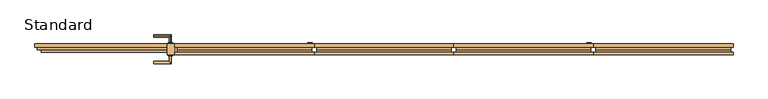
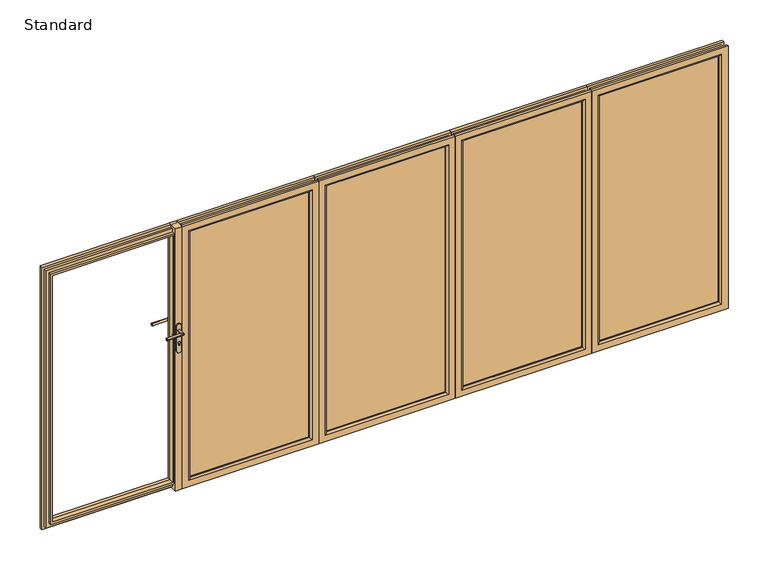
"""IFC4 building model written with IfcOpenShell, lengths in millimetres: door geometry, SMARTS_Visofold1000 : Standard."""

from ifc_helpers import new_model, si_unit, point, frame, frame_2d, origin, origin_with_axes, place, context, project, spatial, polyline, circle_curve, ellipse_curve, trimmed, segment, composite_curve, outline, extrude, faceted_brep, source, transform, mapped, element, save
from ifc_brep_helpers import plane_surface, cylinder_surface, advanced_brep


def standard_f892411e(model_context):
    return source(origin(), model_context, "Body", "SolidModel", [
        extrude(outline(composite_curve([segment(polyline([(1228.0996413, -538.0), (1040.0996413, -538.0)]), True, "CONTINUOUS"), segment(trimmed(circle_curve(frame_2d((1040.0996413, -522.0)), 16.0), [point((1040.0996413, -538.0))], [point((1040.0996413, -506.0))], False, "CARTESIAN"), True, "CONTINUOUS"), segment(polyline([(1040.0996413, -506.0), (1228.0996413, -506.0)]), True, "CONTINUOUS"), segment(trimmed(circle_curve(frame_2d((1228.0996413, -522.0)), 16.0), [point((1228.0996413, -506.0))], [point((1228.0996413, -538.0))], False, "CARTESIAN"), True, "CONTINUOUS")], self_intersect=False)), frame((0.0, 75.0, 0.0), z_axis=(0.0, 1.0, 0.0), x_axis=(0.0, 0.0, 1.0)), (0.0, 0.0, 1.0), 10.0),
        extrude(outline(polyline([(45.0, -537.0), (1955.0, -537.0), (1955.0, -1431.0), (45.0, -1431.0), (45.0, -537.0)]), holes=[polyline([(1939.5, -552.5), (60.5, -552.5), (60.5, -1415.5), (1939.5, -1415.5), (1939.5, -552.5)])]), frame((0.0, 17.4, 0.0), z_axis=(0.0, 1.0, 0.0), x_axis=(0.0, 0.0, 1.0)), (0.0, 0.0, 1.0), 35.0),
        faceted_brep([(-492.0, 74.4, 0.0), (-492.0, 74.4, 2000.0), (-492.0, 52.4, 2000.0), (-492.0, 52.4, 0.0), (-552.5, 52.4, 60.5), (-552.5, 52.4, 1939.5), (-552.5, 74.4, 1939.5), (-552.5, 74.4, 60.5), (-1476.0, 74.4, 2000.0), (-1476.0, 52.4, 2000.0), (-1415.5, 52.4, 1939.5), (-1415.5, 74.4, 1939.5), (-1476.0, 74.4, 0.0), (-1476.0, 52.4, 0.0), (-1415.5, 52.4, 60.5), (-1415.5, 74.4, 60.5), (-509.8691481, 34.8, 17.8691481), (-509.8691481, 34.8, 1982.1308519), (-1458.1308519, 34.8, 1982.1308519), (-1458.1308519, 34.8, 17.8691481), (-537.0, 34.8, 1955.0), (-537.0, 34.8, 45.0), (-1431.0, 34.8, 45.0), (-1431.0, 34.8, 1955.0), (-509.8691481, 52.4, 17.8691481), (-509.8691481, 52.4, 1982.1308519), (-537.0, 52.4, 1955.0), (-537.0, 52.4, 45.0), (-1458.1308519, 52.4, 1982.1308519), (-1431.0, 52.4, 1955.0), (-1458.1308519, 52.4, 17.8691481), (-1431.0, 52.4, 45.0)], [[[0, 1, 2, 3]], [[4, 5, 6, 7]], [[1, 8, 9, 2]], [[5, 10, 11, 6]], [[8, 12, 13, 9]], [[10, 14, 15, 11]], [[12, 0, 3, 13]], [[1, 0, 12, 8], [7, 6, 11, 15]], [[14, 4, 7, 15]], [[16, 17, 18, 19], [20, 21, 22, 23]], [[24, 25, 17, 16]], [[21, 20, 26, 27]], [[25, 28, 18, 17]], [[20, 23, 29, 26]], [[28, 30, 19, 18]], [[23, 22, 31, 29]], [[30, 24, 16, 19]], [[3, 2, 9, 13], [25, 24, 30, 28]], [[27, 26, 29, 31], [5, 4, 14, 10]], [[22, 21, 27, 31]]]),
        advanced_brep(
        [(-552.5, 13.3, 60.5), (-552.5, 13.3, 1939.5), (-552.5, 17.4, 1939.5), (-552.5, 17.4, 60.5), (-492.0, 17.4, 0.0), (-492.0, 17.4, 2000.0), (-492.0, 0.0, 2000.0), (-492.0, 0.0, 0.0), (-1415.5, 13.3, 1939.5), (-1415.5, 17.4, 1939.5), (-1476.0, 17.4, 2000.0), (-1476.0, 0.0, 2000.0), (-1415.5, 13.3, 60.5), (-1415.5, 17.4, 60.5), (-1476.0, 17.4, 0.0), (-1476.0, 0.0, 0.0), (-539.2, 0.0, 1952.8), (-539.2, 0.0, 47.2), (-1428.8, 0.0, 47.2), (-1428.8, 0.0, 1952.8), (-509.8691481, 34.8, 17.8691481), (-509.8691481, 34.8, 1982.1308519), (-509.8691481, 17.4, 1982.1308519), (-509.8691481, 17.4, 17.8691481), (-1458.1308519, 34.8, 1982.1308519), (-1458.1308519, 17.4, 1982.1308519), (-1458.1308519, 34.8, 17.8691481), (-1458.1308519, 17.4, 17.8691481), (-537.0, 17.4, 45.0), (-537.0, 17.4, 1955.0), (-537.0, 34.8, 1955.0), (-537.0, 34.8, 45.0), (-1431.0, 17.4, 1955.0), (-1431.0, 34.8, 1955.0), (-1431.0, 17.4, 45.0), (-1431.0, 34.8, 45.0)],
        [
            (0, 1),
            (1, 2),
            (2, 3),
            (3, 0),
            (4, 5),
            (5, 6),
            (6, 7),
            (7, 4),
            (1, 8),
            (8, 9),
            (9, 2),
            (5, 10),
            (10, 11),
            (11, 6),
            (8, 12),
            (12, 13),
            (13, 9),
            (10, 14),
            (14, 15),
            (15, 11),
            (12, 0),
            (3, 13),
            (15, 7),
            (16, 17),
            (17, 18),
            (18, 19),
            (19, 16),
            (14, 4),
            (16, 1, ellipse_curve(frame((-539.2, 13.3, 1952.8), z_axis=(0.7071067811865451, 0.0, -0.7071067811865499), x_axis=(-0.70710678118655, 0.0, -0.7071067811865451)), 18.8090404, 13.3)),
            (0, 17, ellipse_curve(frame((-539.2, 13.3, 47.2), z_axis=(0.70710678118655, 0.0, 0.707106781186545), x_axis=(0.707106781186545, 0.0, -0.7071067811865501)), 18.8090404, 13.3)),
            (19, 8, ellipse_curve(frame((-1428.8, 13.3, 1952.8), z_axis=(0.70710678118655, 0.0, 0.707106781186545), x_axis=(0.707106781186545, 0.0, -0.7071067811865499)), 18.8090404, 13.3)),
            (18, 12, ellipse_curve(frame((-1428.8, 13.3, 47.2), z_axis=(-0.7071067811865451, 0.0, 0.7071067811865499), x_axis=(0.70710678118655, 0.0, 0.7071067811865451)), 18.8090404, 13.3)),
            (20, 21),
            (21, 22),
            (22, 23),
            (23, 20),
            (21, 24),
            (24, 25),
            (25, 22),
            (24, 26),
            (26, 27),
            (27, 25),
            (27, 23),
            (26, 20),
            (28, 29),
            (29, 30),
            (30, 31),
            (31, 28),
            (29, 32),
            (32, 33),
            (33, 30),
            (32, 34),
            (34, 35),
            (35, 33),
            (34, 28),
            (31, 35),
        ],
        [
            plane_surface(frame((-552.5, 17.4, 60.5), z_axis=(-1.0, 0.0, 0.0), x_axis=(0.0, 0.0, 1.0))),
            plane_surface(frame((-492.0, 0.0, 0.0), z_axis=(1.0, 0.0, 0.0), x_axis=(0.0, 0.0, 1.0))),
            plane_surface(frame((-552.5, 17.4, 1939.5), z_axis=(0.0, 0.0, -1.0), x_axis=(-1.0, 0.0, 0.0))),
            plane_surface(frame((-492.0, 0.0, 2000.0), z_axis=(0.0, 0.0, 1.0), x_axis=(-1.0, 0.0, 0.0))),
            plane_surface(frame((-1415.5, 17.4, 1939.5), z_axis=(1.0, 0.0, 0.0), x_axis=(0.0, 0.0, -1.0))),
            plane_surface(frame((-1476.0, 0.0, 2000.0), z_axis=(-1.0, 0.0, 0.0), x_axis=(0.0, 0.0, -1.0))),
            plane_surface(frame((-1415.5, 17.4, 60.5), z_axis=(0.0, 0.0, 1.0), x_axis=(1.0, 0.0, 0.0))),
            plane_surface(frame((-1428.8, 0.0, 47.2), z_axis=(0.0, -1.0, 0.0), x_axis=(1.0, 0.0, 0.0))),
            plane_surface(frame((-1476.0, 0.0, 0.0), z_axis=(0.0, 0.0, -1.0), x_axis=(1.0, 0.0, 0.0))),
            cylinder_surface(frame((-539.2, 13.3, 0.0), z_axis=(0.0, 0.0, -1.0), x_axis=(0.0, 1.0, 0.0)), 13.3),
            cylinder_surface(frame((-492.0, 13.3, 1952.8), z_axis=(1.0, 0.0, 0.0), x_axis=(0.0, 1.0, 0.0)), 13.3),
            cylinder_surface(frame((-1428.8, 13.3, 2000.0), z_axis=(0.0, 0.0, 1.0), x_axis=(0.0, 1.0, 0.0)), 13.3),
            cylinder_surface(frame((-1476.0, 13.3, 47.2), z_axis=(-1.0, 0.0, 0.0), x_axis=(0.0, 1.0, 0.0)), 13.3),
            plane_surface(frame((-509.8691481, 17.4, 17.8691481), z_axis=(1.0, 0.0, 0.0), x_axis=(0.0, 0.0, 1.0))),
            plane_surface(frame((-509.8691481, 17.4, 1982.1308519), z_axis=(0.0, 0.0, 1.0), x_axis=(-1.0, 0.0, 0.0))),
            plane_surface(frame((-1458.1308519, 17.4, 1982.1308519), z_axis=(-1.0, 0.0, 0.0), x_axis=(0.0, 0.0, -1.0))),
            plane_surface(frame((-1476.0, 17.4, 0.0), z_axis=(0.0, 1.0, 0.0), x_axis=(1.0, 0.0, 0.0))),
            plane_surface(frame((-1458.1308519, 17.4, 17.8691481), z_axis=(0.0, 0.0, -1.0), x_axis=(1.0, 0.0, 0.0))),
            plane_surface(frame((-537.0, 34.8, 45.0), z_axis=(-1.0, 0.0, 0.0), x_axis=(0.0, 0.0, 1.0))),
            plane_surface(frame((-537.0, 34.8, 1955.0), z_axis=(0.0, 0.0, -1.0), x_axis=(-1.0, 0.0, 0.0))),
            plane_surface(frame((-1431.0, 34.8, 1955.0), z_axis=(1.0, 0.0, 0.0), x_axis=(0.0, 0.0, -1.0))),
            plane_surface(frame((-1431.0, 34.8, 45.0), z_axis=(0.0, 0.0, 1.0), x_axis=(1.0, 0.0, 0.0))),
            plane_surface(frame((-1431.0, 17.4, 45.0), z_axis=(0.0, 1.0, 0.0), x_axis=(1.0, 0.0, 0.0))),
            plane_surface(frame((-1458.1308519, 34.8, 17.8691481), z_axis=(0.0, 1.0, 0.0), x_axis=(1.0, 0.0, 0.0))),
        ],
        [
            (0, [[1, 2, 3, 4]]),
            (1, [[5, 6, 7, 8]]),
            (2, [[9, 10, 11, -2]]),
            (3, [[12, 13, 14, -6]]),
            (4, [[15, 16, 17, -10]]),
            (5, [[18, 19, 20, -13]]),
            (6, [[21, -4, 22, -16]]),
            (7, [[-7, -14, -20, 23], [24, 25, 26, 27]]),
            (8, [[28, -8, -23, -19]]),
            (9, [[-24, 29, -1, 30]]),
            (10, [[-27, 31, -9, -29]]),
            (11, [[-26, 32, -15, -31]]),
            (12, [[-25, -30, -21, -32]]),
            (13, [[33, 34, 35, 36]]),
            (14, [[37, 38, 39, -34]]),
            (15, [[40, 41, 42, -38]]),
            (16, [[-5, -28, -18, -12], [-35, -39, -42, 43]]),
            (17, [[44, -36, -43, -41]]),
            (18, [[45, 46, 47, 48]]),
            (19, [[49, 50, 51, -46]]),
            (20, [[52, 53, 54, -50]]),
            (21, [[55, -48, 56, -53]]),
            (22, [[-45, -55, -52, -49], [-3, -11, -17, -22]]),
            (23, [[-33, -44, -40, -37], [-47, -51, -54, -56]]),
        ],
    ),
        extrude(outline(polyline([(-552.5, 50.1484783), (-552.5, 21.4), (-1415.5, 21.4), (-1415.5, 50.1484783), (-552.5, 50.1484783)])), frame((0.0, 0.0, 60.5), z_axis=(0.0, 0.0, 1.0), x_axis=(1.0, 0.0, 0.0)), (0.0, 0.0, 1.0), 1879.0),
        extrude(outline(composite_curve([segment(polyline([(1228.0996413, 1430.0), (1040.0996413, 1430.0)]), True, "CONTINUOUS"), segment(trimmed(circle_curve(frame_2d((1040.0996413, 1446.0)), 16.0), [point((1040.0996413, 1430.0))], [point((1040.0996413, 1462.0))], False, "CARTESIAN"), True, "CONTINUOUS"), segment(polyline([(1040.0996413, 1462.0), (1228.0996413, 1462.0)]), True, "CONTINUOUS"), segment(trimmed(circle_curve(frame_2d((1228.0996413, 1446.0)), 16.0), [point((1228.0996413, 1462.0))], [point((1228.0996413, 1430.0))], False, "CARTESIAN"), True, "CONTINUOUS")], self_intersect=False)), frame((0.0, 75.0, 0.0), z_axis=(0.0, 1.0, 0.0), x_axis=(0.0, 0.0, 1.0)), (0.0, 0.0, 1.0), 10.0),
        extrude(outline(polyline([(45.0, 1431.0), (1955.0, 1431.0), (1955.0, 537.0), (45.0, 537.0), (45.0, 1431.0)]), holes=[polyline([(1939.5, 1415.5), (60.5, 1415.5), (60.5, 552.5), (1939.5, 552.5), (1939.5, 1415.5)])]), frame((0.0, 17.4, 0.0), z_axis=(0.0, 1.0, 0.0), x_axis=(0.0, 0.0, 1.0)), (0.0, 0.0, 1.0), 35.0),
        faceted_brep([(1476.0, 74.4, 0.0), (1476.0, 74.4, 2000.0), (1476.0, 52.4, 2000.0), (1476.0, 52.4, 0.0), (1415.5, 52.4, 60.5), (1415.5, 52.4, 1939.5), (1415.5, 74.4, 1939.5), (1415.5, 74.4, 60.5), (492.0, 74.4, 2000.0), (492.0, 52.4, 2000.0), (552.5, 52.4, 1939.5), (552.5, 74.4, 1939.5), (492.0, 74.4, 0.0), (492.0, 52.4, 0.0), (552.5, 52.4, 60.5), (552.5, 74.4, 60.5), (1458.1308519, 34.8, 17.8691481), (1458.1308519, 34.8, 1982.1308519), (509.8691481, 34.8, 1982.1308519), (509.8691481, 34.8, 17.8691481), (1431.0, 34.8, 1955.0), (1431.0, 34.8, 45.0), (537.0, 34.8, 45.0), (537.0, 34.8, 1955.0), (1458.1308519, 52.4, 17.8691481), (1458.1308519, 52.4, 1982.1308519), (1431.0, 52.4, 1955.0), (1431.0, 52.4, 45.0), (509.8691481, 52.4, 1982.1308519), (537.0, 52.4, 1955.0), (509.8691481, 52.4, 17.8691481), (537.0, 52.4, 45.0)], [[[0, 1, 2, 3]], [[4, 5, 6, 7]], [[1, 8, 9, 2]], [[5, 10, 11, 6]], [[8, 12, 13, 9]], [[10, 14, 15, 11]], [[12, 0, 3, 13]], [[1, 0, 12, 8], [7, 6, 11, 15]], [[14, 4, 7, 15]], [[16, 17, 18, 19], [20, 21, 22, 23]], [[24, 25, 17, 16]], [[21, 20, 26, 27]], [[25, 28, 18, 17]], [[20, 23, 29, 26]], [[28, 30, 19, 18]], [[23, 22, 31, 29]], [[30, 24, 16, 19]], [[3, 2, 9, 13], [25, 24, 30, 28]], [[27, 26, 29, 31], [5, 4, 14, 10]], [[22, 21, 27, 31]]]),
        advanced_brep(
        [(1415.5, 13.3, 60.5), (1415.5, 13.3, 1939.5), (1415.5, 17.4, 1939.5), (1415.5, 17.4, 60.5), (1476.0, 17.4, 0.0), (1476.0, 17.4, 2000.0), (1476.0, 0.0, 2000.0), (1476.0, 0.0, 0.0), (552.5, 13.3, 1939.5), (552.5, 17.4, 1939.5), (492.0, 17.4, 2000.0), (492.0, 0.0, 2000.0), (552.5, 13.3, 60.5), (552.5, 17.4, 60.5), (492.0, 17.4, 0.0), (492.0, 0.0, 0.0), (1428.8, 0.0, 1952.8), (1428.8, 0.0, 47.2), (539.2, 0.0, 47.2), (539.2, 0.0, 1952.8), (1458.1308519, 34.8, 17.8691481), (1458.1308519, 34.8, 1982.1308519), (1458.1308519, 17.4, 1982.1308519), (1458.1308519, 17.4, 17.8691481), (509.8691481, 34.8, 1982.1308519), (509.8691481, 17.4, 1982.1308519), (509.8691481, 34.8, 17.8691481), (509.8691481, 17.4, 17.8691481), (1431.0, 17.4, 45.0), (1431.0, 17.4, 1955.0), (1431.0, 34.8, 1955.0), (1431.0, 34.8, 45.0), (537.0, 17.4, 1955.0), (537.0, 34.8, 1955.0), (537.0, 17.4, 45.0), (537.0, 34.8, 45.0)],
        [
            (0, 1),
            (1, 2),
            (2, 3),
            (3, 0),
            (4, 5),
            (5, 6),
            (6, 7),
            (7, 4),
            (1, 8),
            (8, 9),
            (9, 2),
            (5, 10),
            (10, 11),
            (11, 6),
            (8, 12),
            (12, 13),
            (13, 9),
            (10, 14),
            (14, 15),
            (15, 11),
            (12, 0),
            (3, 13),
            (15, 7),
            (16, 17),
            (17, 18),
            (18, 19),
            (19, 16),
            (14, 4),
            (16, 1, ellipse_curve(frame((1428.8, 13.3, 1952.8), z_axis=(0.7071067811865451, 0.0, -0.7071067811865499), x_axis=(-0.70710678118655, 0.0, -0.7071067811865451)), 18.8090404, 13.3)),
            (0, 17, ellipse_curve(frame((1428.8, 13.3, 47.2), z_axis=(0.70710678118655, 0.0, 0.707106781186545), x_axis=(0.707106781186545, 0.0, -0.7071067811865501)), 18.8090404, 13.3)),
            (19, 8, ellipse_curve(frame((539.2, 13.3, 1952.8), z_axis=(0.70710678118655, 0.0, 0.707106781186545), x_axis=(0.707106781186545, 0.0, -0.7071067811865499)), 18.8090404, 13.3)),
            (18, 12, ellipse_curve(frame((539.2, 13.3, 47.2), z_axis=(-0.7071067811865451, 0.0, 0.7071067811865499), x_axis=(0.70710678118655, 0.0, 0.7071067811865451)), 18.8090404, 13.3)),
            (20, 21),
            (21, 22),
            (22, 23),
            (23, 20),
            (21, 24),
            (24, 25),
            (25, 22),
            (24, 26),
            (26, 27),
            (27, 25),
            (27, 23),
            (26, 20),
            (28, 29),
            (29, 30),
            (30, 31),
            (31, 28),
            (29, 32),
            (32, 33),
            (33, 30),
            (32, 34),
            (34, 35),
            (35, 33),
            (34, 28),
            (31, 35),
        ],
        [
            plane_surface(frame((1415.5, 17.4, 60.5), z_axis=(-1.0, 0.0, 0.0), x_axis=(0.0, 0.0, 1.0))),
            plane_surface(frame((1476.0, 0.0, 0.0), z_axis=(1.0, 0.0, 0.0), x_axis=(0.0, 0.0, 1.0))),
            plane_surface(frame((1415.5, 17.4, 1939.5), z_axis=(0.0, 0.0, -1.0), x_axis=(-1.0, 0.0, 0.0))),
            plane_surface(frame((1476.0, 0.0, 2000.0), z_axis=(0.0, 0.0, 1.0), x_axis=(-1.0, 0.0, 0.0))),
            plane_surface(frame((552.5, 17.4, 1939.5), z_axis=(1.0, 0.0, 0.0), x_axis=(0.0, 0.0, -1.0))),
            plane_surface(frame((492.0, 0.0, 2000.0), z_axis=(-1.0, 0.0, 0.0), x_axis=(0.0, 0.0, -1.0))),
            plane_surface(frame((552.5, 17.4, 60.5), z_axis=(0.0, 0.0, 1.0), x_axis=(1.0, 0.0, 0.0))),
            plane_surface(frame((539.2, 0.0, 47.2), z_axis=(0.0, -1.0, 0.0), x_axis=(1.0, 0.0, 0.0))),
            plane_surface(frame((492.0, 0.0, 0.0), z_axis=(0.0, 0.0, -1.0), x_axis=(1.0, 0.0, 0.0))),
            cylinder_surface(frame((1428.8, 13.3, 0.0), z_axis=(0.0, 0.0, -1.0), x_axis=(0.0, 1.0, 0.0)), 13.3),
            cylinder_surface(frame((1476.0, 13.3, 1952.8), z_axis=(1.0, 0.0, 0.0), x_axis=(0.0, 1.0, 0.0)), 13.3),
            cylinder_surface(frame((539.2, 13.3, 2000.0), z_axis=(0.0, 0.0, 1.0), x_axis=(0.0, 1.0, 0.0)), 13.3),
            cylinder_surface(frame((492.0, 13.3, 47.2), z_axis=(-1.0, 0.0, 0.0), x_axis=(0.0, 1.0, 0.0)), 13.3),
            plane_surface(frame((1458.1308519, 17.4, 17.8691481), z_axis=(1.0, 0.0, 0.0), x_axis=(0.0, 0.0, 1.0))),
            plane_surface(frame((1458.1308519, 17.4, 1982.1308519), z_axis=(0.0, 0.0, 1.0), x_axis=(-1.0, 0.0, 0.0))),
            plane_surface(frame((509.8691481, 17.4, 1982.1308519), z_axis=(-1.0, 0.0, 0.0), x_axis=(0.0, 0.0, -1.0))),
            plane_surface(frame((492.0, 17.4, 0.0), z_axis=(0.0, 1.0, 0.0), x_axis=(1.0, 0.0, 0.0))),
            plane_surface(frame((509.8691481, 17.4, 17.8691481), z_axis=(0.0, 0.0, -1.0), x_axis=(1.0, 0.0, 0.0))),
            plane_surface(frame((1431.0, 34.8, 45.0), z_axis=(-1.0, 0.0, 0.0), x_axis=(0.0, 0.0, 1.0))),
            plane_surface(frame((1431.0, 34.8, 1955.0), z_axis=(0.0, 0.0, -1.0), x_axis=(-1.0, 0.0, 0.0))),
            plane_surface(frame((537.0, 34.8, 1955.0), z_axis=(1.0, 0.0, 0.0), x_axis=(0.0, 0.0, -1.0))),
            plane_surface(frame((537.0, 34.8, 45.0), z_axis=(0.0, 0.0, 1.0), x_axis=(1.0, 0.0, 0.0))),
            plane_surface(frame((537.0, 17.4, 45.0), z_axis=(0.0, 1.0, 0.0), x_axis=(1.0, 0.0, 0.0))),
            plane_surface(frame((509.8691481, 34.8, 17.8691481), z_axis=(0.0, 1.0, 0.0), x_axis=(1.0, 0.0, 0.0))),
        ],
        [
            (0, [[1, 2, 3, 4]]),
            (1, [[5, 6, 7, 8]]),
            (2, [[9, 10, 11, -2]]),
            (3, [[12, 13, 14, -6]]),
            (4, [[15, 16, 17, -10]]),
            (5, [[18, 19, 20, -13]]),
            (6, [[21, -4, 22, -16]]),
            (7, [[-7, -14, -20, 23], [24, 25, 26, 27]]),
            (8, [[28, -8, -23, -19]]),
            (9, [[-24, 29, -1, 30]]),
            (10, [[-27, 31, -9, -29]]),
            (11, [[-26, 32, -15, -31]]),
            (12, [[-25, -30, -21, -32]]),
            (13, [[33, 34, 35, 36]]),
            (14, [[37, 38, 39, -34]]),
            (15, [[40, 41, 42, -38]]),
            (16, [[-5, -28, -18, -12], [-35, -39, -42, 43]]),
            (17, [[44, -36, -43, -41]]),
            (18, [[45, 46, 47, 48]]),
            (19, [[49, 50, 51, -46]]),
            (20, [[52, 53, 54, -50]]),
            (21, [[55, -48, 56, -53]]),
            (22, [[-45, -55, -52, -49], [-3, -11, -17, -22]]),
            (23, [[-33, -44, -40, -37], [-47, -51, -54, -56]]),
        ],
    ),
        extrude(outline(polyline([(1415.5, 50.1484783), (1415.5, 21.4), (552.5, 21.4), (552.5, 50.1484783), (1415.5, 50.1484783)])), frame((0.0, 0.0, 60.5), z_axis=(0.0, 0.0, 1.0), x_axis=(1.0, 0.0, 0.0)), (0.0, 0.0, 1.0), 1879.0),
        extrude(outline(polyline([(45.0, -447.0), (45.0, 447.0), (1955.0, 447.0), (1955.0, -447.0), (45.0, -447.0)]), holes=[polyline([(1939.5, -431.5), (1939.5, 431.5), (60.5, 431.5), (60.5, -431.5), (1939.5, -431.5)])]), frame((0.0, 17.4, 0.0), z_axis=(0.0, 1.0, 0.0), x_axis=(0.0, 0.0, 1.0)), (0.0, 0.0, 1.0), 35.0),
        faceted_brep([(-492.0, 74.4, 0.0), (-492.0, 52.4, 0.0), (-492.0, 52.4, 2000.0), (-492.0, 74.4, 2000.0), (-431.5, 52.4, 60.5), (-431.5, 74.4, 60.5), (-431.5, 74.4, 1939.5), (-431.5, 52.4, 1939.5), (492.0, 52.4, 2000.0), (492.0, 74.4, 2000.0), (431.5, 74.4, 1939.5), (431.5, 52.4, 1939.5), (492.0, 52.4, 0.0), (492.0, 74.4, 0.0), (431.5, 74.4, 60.5), (431.5, 52.4, 60.5), (-474.1308519, 34.8, 17.8691481), (474.1308519, 34.8, 17.8691481), (474.1308519, 34.8, 1982.1308519), (-474.1308519, 34.8, 1982.1308519), (-447.0, 34.8, 1955.0), (447.0, 34.8, 1955.0), (447.0, 34.8, 45.0), (-447.0, 34.8, 45.0), (-474.1308519, 52.4, 17.8691481), (-474.1308519, 52.4, 1982.1308519), (-447.0, 52.4, 45.0), (-447.0, 52.4, 1955.0), (474.1308519, 52.4, 1982.1308519), (447.0, 52.4, 1955.0), (474.1308519, 52.4, 17.8691481), (447.0, 52.4, 45.0)], [[[0, 1, 2, 3]], [[4, 5, 6, 7]], [[3, 2, 8, 9]], [[7, 6, 10, 11]], [[9, 8, 12, 13]], [[11, 10, 14, 15]], [[13, 12, 1, 0]], [[3, 9, 13, 0], [5, 14, 10, 6]], [[15, 14, 5, 4]], [[16, 17, 18, 19], [20, 21, 22, 23]], [[24, 16, 19, 25]], [[23, 26, 27, 20]], [[25, 19, 18, 28]], [[20, 27, 29, 21]], [[28, 18, 17, 30]], [[21, 29, 31, 22]], [[30, 17, 16, 24]], [[1, 12, 8, 2], [25, 28, 30, 24]], [[26, 31, 29, 27], [7, 11, 15, 4]], [[22, 31, 26, 23]]]),
        advanced_brep(
        [(-431.5, 13.3, 60.5), (-431.5, 17.4, 60.5), (-431.5, 17.4, 1939.5), (-431.5, 13.3, 1939.5), (-492.0, 17.4, 0.0), (-492.0, 0.0, 0.0), (-492.0, 0.0, 2000.0), (-492.0, 17.4, 2000.0), (431.5, 17.4, 1939.5), (431.5, 13.3, 1939.5), (492.0, 0.0, 2000.0), (492.0, 17.4, 2000.0), (431.5, 17.4, 60.5), (431.5, 13.3, 60.5), (492.0, 0.0, 0.0), (492.0, 17.4, 0.0), (-444.8, 0.0, 1952.8), (444.8, 0.0, 1952.8), (444.8, 0.0, 47.2), (-444.8, 0.0, 47.2), (-474.1308519, 34.8, 17.8691481), (-474.1308519, 17.4, 17.8691481), (-474.1308519, 17.4, 1982.1308519), (-474.1308519, 34.8, 1982.1308519), (474.1308519, 17.4, 1982.1308519), (474.1308519, 34.8, 1982.1308519), (474.1308519, 17.4, 17.8691481), (474.1308519, 34.8, 17.8691481), (-447.0, 17.4, 45.0), (-447.0, 34.8, 45.0), (-447.0, 34.8, 1955.0), (-447.0, 17.4, 1955.0), (447.0, 34.8, 1955.0), (447.0, 17.4, 1955.0), (447.0, 34.8, 45.0), (447.0, 17.4, 45.0)],
        [
            (0, 1),
            (1, 2),
            (2, 3),
            (3, 0),
            (4, 5),
            (5, 6),
            (6, 7),
            (7, 4),
            (2, 8),
            (8, 9),
            (9, 3),
            (6, 10),
            (10, 11),
            (11, 7),
            (8, 12),
            (12, 13),
            (13, 9),
            (10, 14),
            (14, 15),
            (15, 11),
            (12, 1),
            (0, 13),
            (5, 14),
            (16, 17),
            (17, 18),
            (18, 19),
            (19, 16),
            (4, 15),
            (19, 0, ellipse_curve(frame((-444.8, 13.3, 47.2), z_axis=(-0.70710678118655, 0.0, 0.707106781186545), x_axis=(-0.707106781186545, 0.0, -0.7071067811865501)), 18.8090404, 13.3)),
            (3, 16, ellipse_curve(frame((-444.8, 13.3, 1952.8), z_axis=(-0.7071067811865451, 0.0, -0.7071067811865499), x_axis=(0.70710678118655, 0.0, -0.7071067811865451)), 18.8090404, 13.3)),
            (9, 17, ellipse_curve(frame((444.8, 13.3, 1952.8), z_axis=(-0.70710678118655, 0.0, 0.707106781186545), x_axis=(-0.707106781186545, 0.0, -0.7071067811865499)), 18.8090404, 13.3)),
            (13, 18, ellipse_curve(frame((444.8, 13.3, 47.2), z_axis=(0.7071067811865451, 0.0, 0.7071067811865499), x_axis=(-0.70710678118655, 0.0, 0.7071067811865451)), 18.8090404, 13.3)),
            (20, 21),
            (21, 22),
            (22, 23),
            (23, 20),
            (22, 24),
            (24, 25),
            (25, 23),
            (24, 26),
            (26, 27),
            (27, 25),
            (21, 26),
            (20, 27),
            (28, 29),
            (29, 30),
            (30, 31),
            (31, 28),
            (30, 32),
            (32, 33),
            (33, 31),
            (32, 34),
            (34, 35),
            (35, 33),
            (34, 29),
            (28, 35),
        ],
        [
            plane_surface(frame((-431.5, 17.4, 60.5), z_axis=(1.0, 0.0, 0.0), x_axis=(0.0, 0.0, 1.0))),
            plane_surface(frame((-492.0, 0.0, 0.0), z_axis=(-1.0, 0.0, 0.0), x_axis=(0.0, 0.0, 1.0))),
            plane_surface(frame((-431.5, 17.4, 1939.5), z_axis=(0.0, 0.0, -1.0), x_axis=(1.0, 0.0, 0.0))),
            plane_surface(frame((-492.0, 0.0, 2000.0), z_axis=(0.0, 0.0, 1.0), x_axis=(1.0, 0.0, 0.0))),
            plane_surface(frame((431.5, 17.4, 1939.5), z_axis=(-1.0, 0.0, 0.0), x_axis=(0.0, 0.0, -1.0))),
            plane_surface(frame((492.0, 0.0, 2000.0), z_axis=(1.0, 0.0, 0.0), x_axis=(0.0, 0.0, -1.0))),
            plane_surface(frame((431.5, 17.4, 60.5), z_axis=(0.0, 0.0, 1.0), x_axis=(-1.0, 0.0, 0.0))),
            plane_surface(frame((444.8, 0.0, 47.2), z_axis=(0.0, -1.0, 0.0), x_axis=(-1.0, 0.0, 0.0))),
            plane_surface(frame((492.0, 0.0, 0.0), z_axis=(0.0, 0.0, -1.0), x_axis=(-1.0, 0.0, 0.0))),
            cylinder_surface(frame((-444.8, 13.3, 0.0), z_axis=(0.0, 0.0, -1.0), x_axis=(0.0, 1.0, 0.0)), 13.3),
            cylinder_surface(frame((-492.0, 13.3, 1952.8), z_axis=(-1.0, 0.0, 0.0), x_axis=(0.0, 1.0, 0.0)), 13.3),
            cylinder_surface(frame((444.8, 13.3, 2000.0), z_axis=(0.0, 0.0, 1.0), x_axis=(0.0, 1.0, 0.0)), 13.3),
            cylinder_surface(frame((492.0, 13.3, 47.2), z_axis=(1.0, 0.0, 0.0), x_axis=(0.0, 1.0, 0.0)), 13.3),
            plane_surface(frame((-474.1308519, 17.4, 17.8691481), z_axis=(-1.0, 0.0, 0.0), x_axis=(0.0, 0.0, 1.0))),
            plane_surface(frame((-474.1308519, 17.4, 1982.1308519), z_axis=(0.0, 0.0, 1.0), x_axis=(1.0, 0.0, 0.0))),
            plane_surface(frame((474.1308519, 17.4, 1982.1308519), z_axis=(1.0, 0.0, 0.0), x_axis=(0.0, 0.0, -1.0))),
            plane_surface(frame((492.0, 17.4, 0.0), z_axis=(0.0, 1.0, 0.0), x_axis=(-1.0, 0.0, 0.0))),
            plane_surface(frame((474.1308519, 17.4, 17.8691481), z_axis=(0.0, 0.0, -1.0), x_axis=(-1.0, 0.0, 0.0))),
            plane_surface(frame((-447.0, 34.8, 45.0), z_axis=(1.0, 0.0, 0.0), x_axis=(0.0, 0.0, 1.0))),
            plane_surface(frame((-447.0, 34.8, 1955.0), z_axis=(0.0, 0.0, -1.0), x_axis=(1.0, 0.0, 0.0))),
            plane_surface(frame((447.0, 34.8, 1955.0), z_axis=(-1.0, 0.0, 0.0), x_axis=(0.0, 0.0, -1.0))),
            plane_surface(frame((447.0, 34.8, 45.0), z_axis=(0.0, 0.0, 1.0), x_axis=(-1.0, 0.0, 0.0))),
            plane_surface(frame((447.0, 17.4, 45.0), z_axis=(0.0, 1.0, 0.0), x_axis=(-1.0, 0.0, 0.0))),
            plane_surface(frame((474.1308519, 34.8, 17.8691481), z_axis=(0.0, 1.0, 0.0), x_axis=(-1.0, 0.0, 0.0))),
        ],
        [
            (0, [[1, 2, 3, 4]]),
            (1, [[5, 6, 7, 8]]),
            (2, [[-3, 9, 10, 11]]),
            (3, [[-7, 12, 13, 14]]),
            (4, [[-10, 15, 16, 17]]),
            (5, [[-13, 18, 19, 20]]),
            (6, [[-16, 21, -1, 22]]),
            (7, [[23, -18, -12, -6], [24, 25, 26, 27]]),
            (8, [[-19, -23, -5, 28]]),
            (9, [[29, -4, 30, -27]]),
            (10, [[-30, -11, 31, -24]]),
            (11, [[-31, -17, 32, -25]]),
            (12, [[-32, -22, -29, -26]]),
            (13, [[33, 34, 35, 36]]),
            (14, [[-35, 37, 38, 39]]),
            (15, [[-38, 40, 41, 42]]),
            (16, [[-14, -20, -28, -8], [43, -40, -37, -34]]),
            (17, [[-41, -43, -33, 44]]),
            (18, [[45, 46, 47, 48]]),
            (19, [[-47, 49, 50, 51]]),
            (20, [[-50, 52, 53, 54]]),
            (21, [[-53, 55, -45, 56]]),
            (22, [[-51, -54, -56, -48], [-21, -15, -9, -2]]),
            (23, [[-39, -42, -44, -36], [-55, -52, -49, -46]]),
        ],
    ),
        extrude(outline(polyline([(-431.5, 50.1484783), (431.5, 50.1484783), (431.5, 21.4), (-431.5, 21.4), (-431.5, 50.1484783)])), frame((0.0, 0.0, 60.5), z_axis=(0.0, 0.0, 1.0), x_axis=(1.0, 0.0, 0.0)), (0.0, 0.0, 1.0), 1879.0),
        extrude(outline(polyline([(45.0, 1521.0), (45.0, 2415.0), (1955.0, 2415.0), (1955.0, 1521.0), (45.0, 1521.0)]), holes=[polyline([(1939.5, 1536.5), (1939.5, 2399.5), (60.5, 2399.5), (60.5, 1536.5), (1939.5, 1536.5)])]), frame((0.0, 17.4, 0.0), z_axis=(0.0, 1.0, 0.0), x_axis=(0.0, 0.0, 1.0)), (0.0, 0.0, 1.0), 35.0),
        faceted_brep([(1476.0, 74.4, 0.0), (1476.0, 52.4, 0.0), (1476.0, 52.4, 2000.0), (1476.0, 74.4, 2000.0), (1536.5, 52.4, 60.5), (1536.5, 74.4, 60.5), (1536.5, 74.4, 1939.5), (1536.5, 52.4, 1939.5), (2460.0, 74.4, 0.0), (2460.0, 52.4, 0.0), (2460.0, 52.4, 2000.0), (2460.0, 74.4, 2000.0), (2399.5, 74.4, 1939.5), (2399.5, 52.4, 1939.5), (2399.5, 74.4, 60.5), (2399.5, 52.4, 60.5), (1493.8691481, 34.8, 17.8691481), (2442.1308519, 34.8, 17.8691481), (2442.1308519, 34.8, 1982.1308519), (1493.8691481, 34.8, 1982.1308519), (1521.0, 34.8, 1955.0), (2415.0, 34.8, 1955.0), (2415.0, 34.8, 45.0), (1521.0, 34.8, 45.0), (1493.8691481, 52.4, 17.8691481), (1493.8691481, 52.4, 1982.1308519), (1521.0, 52.4, 45.0), (1521.0, 52.4, 1955.0), (2442.1308519, 52.4, 1982.1308519), (2415.0, 52.4, 1955.0), (2442.1308519, 52.4, 17.8691481), (2415.0, 52.4, 45.0)], [[[0, 1, 2, 3]], [[4, 5, 6, 7]], [[8, 9, 1, 0]], [[3, 2, 10, 11]], [[7, 6, 12, 13]], [[11, 10, 9, 8]], [[13, 12, 14, 15]], [[3, 11, 8, 0], [5, 14, 12, 6]], [[15, 14, 5, 4]], [[16, 17, 18, 19], [20, 21, 22, 23]], [[24, 16, 19, 25]], [[23, 26, 27, 20]], [[25, 19, 18, 28]], [[20, 27, 29, 21]], [[28, 18, 17, 30]], [[21, 29, 31, 22]], [[30, 17, 16, 24]], [[1, 9, 10, 2], [25, 28, 30, 24]], [[26, 31, 29, 27], [7, 13, 15, 4]], [[22, 31, 26, 23]]]),
        advanced_brep(
        [(1536.5, 13.3, 60.5), (1536.5, 17.4, 60.5), (1536.5, 17.4, 1939.5), (1536.5, 13.3, 1939.5), (1476.0, 17.4, 0.0), (1476.0, 0.0, 0.0), (1476.0, 0.0, 2000.0), (1476.0, 17.4, 2000.0), (2399.5, 17.4, 1939.5), (2399.5, 13.3, 1939.5), (2460.0, 0.0, 2000.0), (2460.0, 17.4, 2000.0), (2399.5, 17.4, 60.5), (2399.5, 13.3, 60.5), (2460.0, 0.0, 0.0), (2460.0, 17.4, 0.0), (1523.2, 0.0, 1952.8), (2412.8, 0.0, 1952.8), (2412.8, 0.0, 47.2), (1523.2, 0.0, 47.2), (1493.8691481, 34.8, 17.8691481), (1493.8691481, 17.4, 17.8691481), (1493.8691481, 17.4, 1982.1308519), (1493.8691481, 34.8, 1982.1308519), (2442.1308519, 17.4, 1982.1308519), (2442.1308519, 34.8, 1982.1308519), (2442.1308519, 17.4, 17.8691481), (2442.1308519, 34.8, 17.8691481), (1521.0, 17.4, 45.0), (1521.0, 34.8, 45.0), (1521.0, 34.8, 1955.0), (1521.0, 17.4, 1955.0), (2415.0, 34.8, 1955.0), (2415.0, 17.4, 1955.0), (2415.0, 34.8, 45.0), (2415.0, 17.4, 45.0)],
        [
            (0, 1),
            (1, 2),
            (2, 3),
            (3, 0),
            (4, 5),
            (5, 6),
            (6, 7),
            (7, 4),
            (2, 8),
            (8, 9),
            (9, 3),
            (6, 10),
            (10, 11),
            (11, 7),
            (8, 12),
            (12, 13),
            (13, 9),
            (10, 14),
            (14, 15),
            (15, 11),
            (12, 1),
            (0, 13),
            (5, 14),
            (16, 17),
            (17, 18),
            (18, 19),
            (19, 16),
            (4, 15),
            (19, 0, ellipse_curve(frame((1523.2, 13.3, 47.2), z_axis=(-0.70710678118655, 0.0, 0.707106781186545), x_axis=(-0.707106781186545, 0.0, -0.7071067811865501)), 18.8090404, 13.3)),
            (3, 16, ellipse_curve(frame((1523.2, 13.3, 1952.8), z_axis=(-0.7071067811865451, 0.0, -0.7071067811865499), x_axis=(0.70710678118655, 0.0, -0.7071067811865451)), 18.8090404, 13.3)),
            (9, 17, ellipse_curve(frame((2412.8, 13.3, 1952.8), z_axis=(-0.70710678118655, 0.0, 0.707106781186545), x_axis=(-0.707106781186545, 0.0, -0.7071067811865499)), 18.8090404, 13.3)),
            (13, 18, ellipse_curve(frame((2412.8, 13.3, 47.2), z_axis=(0.7071067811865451, 0.0, 0.7071067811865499), x_axis=(-0.70710678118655, 0.0, 0.7071067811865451)), 18.8090404, 13.3)),
            (20, 21),
            (21, 22),
            (22, 23),
            (23, 20),
            (22, 24),
            (24, 25),
            (25, 23),
            (24, 26),
            (26, 27),
            (27, 25),
            (21, 26),
            (20, 27),
            (28, 29),
            (29, 30),
            (30, 31),
            (31, 28),
            (30, 32),
            (32, 33),
            (33, 31),
            (32, 34),
            (34, 35),
            (35, 33),
            (34, 29),
            (28, 35),
        ],
        [
            plane_surface(frame((1536.5, 17.4, 60.5), z_axis=(1.0, 0.0, 0.0), x_axis=(0.0, 0.0, 1.0))),
            plane_surface(frame((1476.0, 0.0, 0.0), z_axis=(-1.0, 0.0, 0.0), x_axis=(0.0, 0.0, 1.0))),
            plane_surface(frame((1536.5, 17.4, 1939.5), z_axis=(0.0, 0.0, -1.0), x_axis=(1.0, 0.0, 0.0))),
            plane_surface(frame((1476.0, 0.0, 2000.0), z_axis=(0.0, 0.0, 1.0), x_axis=(1.0, 0.0, 0.0))),
            plane_surface(frame((2399.5, 17.4, 1939.5), z_axis=(-1.0, 0.0, 0.0), x_axis=(0.0, 0.0, -1.0))),
            plane_surface(frame((2460.0, 0.0, 2000.0), z_axis=(1.0, 0.0, 0.0), x_axis=(0.0, 0.0, -1.0))),
            plane_surface(frame((2399.5, 17.4, 60.5), z_axis=(0.0, 0.0, 1.0), x_axis=(-1.0, 0.0, 0.0))),
            plane_surface(frame((2412.8, 0.0, 47.2), z_axis=(0.0, -1.0, 0.0), x_axis=(-1.0, 0.0, 0.0))),
            plane_surface(frame((2460.0, 0.0, 0.0), z_axis=(0.0, 0.0, -1.0), x_axis=(-1.0, 0.0, 0.0))),
            cylinder_surface(frame((1523.2, 13.3, 0.0), z_axis=(0.0, 0.0, -1.0), x_axis=(0.0, 1.0, 0.0)), 13.3),
            cylinder_surface(frame((1476.0, 13.3, 1952.8), z_axis=(-1.0, 0.0, 0.0), x_axis=(0.0, 1.0, 0.0)), 13.3),
            cylinder_surface(frame((2412.8, 13.3, 2000.0), z_axis=(0.0, 0.0, 1.0), x_axis=(0.0, 1.0, 0.0)), 13.3),
            cylinder_surface(frame((2460.0, 13.3, 47.2), z_axis=(1.0, 0.0, 0.0), x_axis=(0.0, 1.0, 0.0)), 13.3),
            plane_surface(frame((1493.8691481, 17.4, 17.8691481), z_axis=(-1.0, 0.0, 0.0), x_axis=(0.0, 0.0, 1.0))),
            plane_surface(frame((1493.8691481, 17.4, 1982.1308519), z_axis=(0.0, 0.0, 1.0), x_axis=(1.0, 0.0, 0.0))),
            plane_surface(frame((2442.1308519, 17.4, 1982.1308519), z_axis=(1.0, 0.0, 0.0), x_axis=(0.0, 0.0, -1.0))),
            plane_surface(frame((2460.0, 17.4, 0.0), z_axis=(0.0, 1.0, 0.0), x_axis=(-1.0, 0.0, 0.0))),
            plane_surface(frame((2442.1308519, 17.4, 17.8691481), z_axis=(0.0, 0.0, -1.0), x_axis=(-1.0, 0.0, 0.0))),
            plane_surface(frame((1521.0, 34.8, 45.0), z_axis=(1.0, 0.0, 0.0), x_axis=(0.0, 0.0, 1.0))),
            plane_surface(frame((1521.0, 34.8, 1955.0), z_axis=(0.0, 0.0, -1.0), x_axis=(1.0, 0.0, 0.0))),
            plane_surface(frame((2415.0, 34.8, 1955.0), z_axis=(-1.0, 0.0, 0.0), x_axis=(0.0, 0.0, -1.0))),
            plane_surface(frame((2415.0, 34.8, 45.0), z_axis=(0.0, 0.0, 1.0), x_axis=(-1.0, 0.0, 0.0))),
            plane_surface(frame((2415.0, 17.4, 45.0), z_axis=(0.0, 1.0, 0.0), x_axis=(-1.0, 0.0, 0.0))),
            plane_surface(frame((2442.1308519, 34.8, 17.8691481), z_axis=(0.0, 1.0, 0.0), x_axis=(-1.0, 0.0, 0.0))),
        ],
        [
            (0, [[1, 2, 3, 4]]),
            (1, [[5, 6, 7, 8]]),
            (2, [[-3, 9, 10, 11]]),
            (3, [[-7, 12, 13, 14]]),
            (4, [[-10, 15, 16, 17]]),
            (5, [[-13, 18, 19, 20]]),
            (6, [[-16, 21, -1, 22]]),
            (7, [[23, -18, -12, -6], [24, 25, 26, 27]]),
            (8, [[-19, -23, -5, 28]]),
            (9, [[29, -4, 30, -27]]),
            (10, [[-30, -11, 31, -24]]),
            (11, [[-31, -17, 32, -25]]),
            (12, [[-32, -22, -29, -26]]),
            (13, [[33, 34, 35, 36]]),
            (14, [[-35, 37, 38, 39]]),
            (15, [[-38, 40, 41, 42]]),
            (16, [[-14, -20, -28, -8], [43, -40, -37, -34]]),
            (17, [[-41, -43, -33, 44]]),
            (18, [[45, 46, 47, 48]]),
            (19, [[-47, 49, 50, 51]]),
            (20, [[-50, 52, 53, 54]]),
            (21, [[-53, 55, -45, 56]]),
            (22, [[-51, -54, -56, -48], [-21, -15, -9, -2]]),
            (23, [[-39, -42, -44, -36], [-55, -52, -49, -46]]),
        ],
    ),
        extrude(outline(polyline([(1536.5, 50.1484783), (2399.5, 50.1484783), (2399.5, 21.4), (1536.5, 21.4), (1536.5, 50.1484783)])), frame((0.0, 0.0, 60.5), z_axis=(0.0, 0.0, 1.0), x_axis=(1.0, 0.0, 0.0)), (0.0, 0.0, 1.0), 1879.0),
        extrude(outline(polyline([(-1526.0, 0.0), (-1526.0, 75.1750992), (-1476.0, 75.1750992), (-1476.0, 0.0), (-1526.0, 0.0)])), origin_with_axes(), (0.0, 0.0, 1.0), 2000.0),
        advanced_brep(
        [(-1506.0, 75.0, 1232.5996413), (-1506.0, 75.0, 1215.5996413), (-1506.0, 130.0, 1232.5996413), (-1506.0, 130.0, 1215.5996413), (-1621.0, 130.0, 1232.5996413), (-1621.0, 130.0, 1215.5996413)],
        [
            (0, 1, circle_curve(frame((-1506.0, 75.0, 1224.0996413), z_axis=(0.0, -1.0, 0.0), x_axis=(0.0, 0.0, -1.0)), 8.5)),
            (1, 0, circle_curve(frame((-1506.0, 75.0, 1224.0996413), z_axis=(0.0, -1.0, 0.0), x_axis=(0.0, 0.0, -1.0)), 8.5)),
            (0, 2),
            (2, 3, ellipse_curve(frame((-1506.0, 130.0, 1224.0996413), z_axis=(0.7071067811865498, -0.7071067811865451, 0.0), x_axis=(-0.707106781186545, -0.70710678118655, 0.0)), 12.0208153, 8.5)),
            (3, 1),
            (3, 2, ellipse_curve(frame((-1506.0, 130.0, 1224.0996413), z_axis=(0.7071067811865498, -0.7071067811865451, 0.0), x_axis=(-0.707106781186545, -0.70710678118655, 0.0)), 12.0208153, 8.5)),
            (4, 5, circle_curve(frame((-1621.0, 130.0, 1224.0996413), z_axis=(-1.0, 0.0, 0.0), x_axis=(0.0, 0.0, -1.0)), 8.5)),
            (5, 4, circle_curve(frame((-1621.0, 130.0, 1224.0996413), z_axis=(-1.0, 0.0, 0.0), x_axis=(0.0, 0.0, -1.0)), 8.5)),
            (2, 4),
            (5, 3),
        ],
        [
            plane_surface(frame((-1506.0, 75.0, 1224.0996413), z_axis=(0.0, -1.0, 0.0), x_axis=(0.0, 0.0, -1.0))),
            cylinder_surface(frame((-1506.0, 75.0, 1224.0996413), z_axis=(0.0, -1.0, 0.0), x_axis=(0.0, 0.0, -1.0)), 8.5),
            plane_surface(frame((-1621.0, 130.0, 1224.0996413), z_axis=(-1.0, 0.0, 0.0), x_axis=(0.0, 0.0, -1.0))),
            cylinder_surface(frame((-1506.0, 130.0, 1224.0996413), z_axis=(1.0, 0.0, 0.0), x_axis=(0.0, 0.0, -1.0)), 8.5),
        ],
        [
            (0, [[1, 2]]),
            (1, [[3, 4, 5, -1]]),
            (1, [[-5, 6, -3, -2]]),
            (2, [[7, 8]]),
            (3, [[9, -8, 10, -4]]),
            (3, [[-10, -7, -9, -6]]),
        ],
    ),
        extrude(outline(composite_curve([segment(polyline([(1258.0996413, -1522.0), (1070.0996413, -1522.0)]), True, "CONTINUOUS"), segment(trimmed(circle_curve(frame_2d((1070.0996413, -1506.0)), 16.0), [point((1070.0996413, -1522.0))], [point((1070.0996413, -1490.0))], False, "CARTESIAN"), True, "CONTINUOUS"), segment(polyline([(1070.0996413, -1490.0), (1258.0996413, -1490.0)]), True, "CONTINUOUS"), segment(trimmed(circle_curve(frame_2d((1258.0996413, -1506.0)), 16.0), [point((1258.0996413, -1490.0))], [point((1258.0996413, -1522.0))], False, "CARTESIAN"), True, "CONTINUOUS")], self_intersect=False)), frame((0.0, 75.0, 0.0), z_axis=(0.0, 1.0, 0.0), x_axis=(0.0, 0.0, 1.0)), (0.0, 0.0, 1.0), 10.0),
        advanced_brep(
        [(-1514.5, 0.0, 1224.0996413), (-1497.5, 0.0, 1224.0996413), (-1497.5, -63.5, 1224.0996413), (-1514.5, -46.5, 1224.0996413), (-1621.0, -46.5, 1224.0996413), (-1621.0, -63.5, 1224.0996413)],
        [
            (0, 1, circle_curve(frame((-1506.0, 0.0, 1224.0996413), z_axis=(0.0, 1.0, 0.0), x_axis=(1.0, 0.0, 0.0)), 8.5)),
            (1, 0, circle_curve(frame((-1506.0, 0.0, 1224.0996413), z_axis=(0.0, 1.0, 0.0), x_axis=(1.0, 0.0, 0.0)), 8.5)),
            (1, 2),
            (2, 3, ellipse_curve(frame((-1506.0, -55.0, 1224.0996413), z_axis=(0.7071067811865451, 0.7071067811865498, 0.0), x_axis=(-0.7071067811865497, 0.7071067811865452, 0.0)), 12.0208153, 8.5)),
            (3, 0),
            (3, 2, ellipse_curve(frame((-1506.0, -55.0, 1224.0996413), z_axis=(0.7071067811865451, 0.7071067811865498, 0.0), x_axis=(-0.7071067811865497, 0.7071067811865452, 0.0)), 12.0208153, 8.5)),
            (4, 5, circle_curve(frame((-1621.0, -55.0, 1224.0996413), z_axis=(-1.0, 0.0, 0.0), x_axis=(0.0, -1.0, 0.0)), 8.5)),
            (5, 4, circle_curve(frame((-1621.0, -55.0, 1224.0996413), z_axis=(-1.0, 0.0, 0.0), x_axis=(0.0, -1.0, 0.0)), 8.5)),
            (2, 5),
            (4, 3),
        ],
        [
            plane_surface(frame((-1506.0, 0.0, 1224.0996413), z_axis=(0.0, 1.0, 0.0), x_axis=(0.0, 0.0, -1.0))),
            cylinder_surface(frame((-1506.0, 0.0, 1224.0996413), z_axis=(0.0, 1.0, 0.0), x_axis=(1.0, 0.0, 0.0)), 8.5),
            plane_surface(frame((-1621.0, -55.0, 1224.0996413), z_axis=(-1.0, 0.0, 0.0), x_axis=(0.0, 0.0, -1.0))),
            cylinder_surface(frame((-1506.0, -55.0, 1224.0996413), z_axis=(1.0, 0.0, 0.0), x_axis=(0.0, -1.0, 0.0)), 8.5),
        ],
        [
            (0, [[1, 2]]),
            (1, [[3, 4, 5, -2]]),
            (1, [[-5, 6, -3, -1]]),
            (2, [[7, 8]]),
            (3, [[9, -7, 10, -4]]),
            (3, [[-10, -8, -9, -6]]),
        ],
    ),
        extrude(outline(composite_curve([segment(polyline([(1258.0996413, -1522.0), (1070.0996413, -1522.0)]), True, "CONTINUOUS"), segment(trimmed(circle_curve(frame_2d((1070.0996413, -1506.0)), 16.0), [point((1070.0996413, -1522.0))], [point((1070.0996413, -1490.0))], False, "CARTESIAN"), True, "CONTINUOUS"), segment(polyline([(1070.0996413, -1490.0), (1258.0996413, -1490.0)]), True, "CONTINUOUS"), segment(trimmed(circle_curve(frame_2d((1258.0996413, -1506.0)), 16.0), [point((1258.0996413, -1490.0))], [point((1258.0996413, -1522.0))], False, "CARTESIAN"), True, "CONTINUOUS")], self_intersect=False)), frame((0.0, -10.0, 0.0), z_axis=(0.0, 1.0, 0.0), x_axis=(0.0, 0.0, 1.0)), (0.0, 0.0, 1.0), 10.0),
        extrude(outline(composite_curve([segment(polyline([(1125.1769586, -1510.9893771), (1117.5996413, -1510.9893771)]), True, "CONTINUOUS"), segment(trimmed(circle_curve(frame_2d((1117.5996413, -1505.9893771)), 5.0), [point((1117.5996413, -1510.9893771))], [point((1117.5996413, -1500.9893771))], False, "CARTESIAN"), True, "CONTINUOUS"), segment(polyline([(1117.5996413, -1500.9893771), (1125.27562, -1500.9893771)]), True, "CONTINUOUS"), segment(trimmed(circle_curve(frame_2d((1132.0996413, -1506.0571906)), 8.5), [point((1125.27562, -1500.9893771))], [point((1125.1769586, -1510.9893771))], False, "CARTESIAN"), True, "CONTINUOUS")], self_intersect=False)), frame((0.0, 85.0, 0.0), z_axis=(0.0, 1.0, 0.0), x_axis=(0.0, 0.0, 1.0)), (0.0, 0.0, 1.0), 2.0),
        extrude(outline(composite_curve([segment(polyline([(1125.1769586, -1510.9893771), (1117.5996413, -1510.9893771)]), True, "CONTINUOUS"), segment(trimmed(circle_curve(frame_2d((1117.5996413, -1505.9893771)), 5.0), [point((1117.5996413, -1510.9893771))], [point((1117.5996413, -1500.9893771))], False, "CARTESIAN"), True, "CONTINUOUS"), segment(polyline([(1117.5996413, -1500.9893771), (1125.27562, -1500.9893771)]), True, "CONTINUOUS"), segment(trimmed(circle_curve(frame_2d((1132.0996413, -1506.0571906)), 8.5), [point((1125.27562, -1500.9893771))], [point((1125.1769586, -1510.9893771))], False, "CARTESIAN"), True, "CONTINUOUS")], self_intersect=False)), frame((0.0, -12.0, 0.0), z_axis=(0.0, 1.0, 0.0), x_axis=(0.0, 0.0, 1.0)), (0.0, 0.0, 1.0), 2.0),
        extrude(outline(polyline([(45.0, -1521.0), (1955.0, -1521.0), (1955.0, -2415.0), (45.0, -2415.0), (45.0, -1521.0)]), holes=[polyline([(1939.5, -1536.5), (60.5, -1536.5), (60.5, -2399.5), (1939.5, -2399.5), (1939.5, -1536.5)])]), frame((0.0, 17.4, 0.0), z_axis=(0.0, 1.0, 0.0), x_axis=(0.0, 0.0, 1.0)), (0.0, 0.0, 1.0), 35.0),
        faceted_brep([(-1476.0, 74.4, 0.0), (-1476.0, 74.4, 2000.0), (-1476.0, 52.4, 2000.0), (-1476.0, 52.4, 0.0), (-1536.5, 52.4, 60.5), (-1536.5, 52.4, 1939.5), (-1536.5, 74.4, 1939.5), (-1536.5, 74.4, 60.5), (-2460.0, 74.4, 0.0), (-2460.0, 52.4, 0.0), (-2460.0, 74.4, 2000.0), (-2460.0, 52.4, 2000.0), (-2399.5, 52.4, 1939.5), (-2399.5, 74.4, 1939.5), (-2399.5, 52.4, 60.5), (-2399.5, 74.4, 60.5), (-1493.8691481, 34.8, 17.8691481), (-1493.8691481, 34.8, 1982.1308519), (-2442.1308519, 34.8, 1982.1308519), (-2442.1308519, 34.8, 17.8691481), (-1521.0, 34.8, 1955.0), (-1521.0, 34.8, 45.0), (-2415.0, 34.8, 45.0), (-2415.0, 34.8, 1955.0), (-1493.8691481, 52.4, 17.8691481), (-1493.8691481, 52.4, 1982.1308519), (-1521.0, 52.4, 1955.0), (-1521.0, 52.4, 45.0), (-2442.1308519, 52.4, 1982.1308519), (-2415.0, 52.4, 1955.0), (-2442.1308519, 52.4, 17.8691481), (-2415.0, 52.4, 45.0)], [[[0, 1, 2, 3]], [[4, 5, 6, 7]], [[8, 0, 3, 9]], [[1, 10, 11, 2]], [[5, 12, 13, 6]], [[10, 8, 9, 11]], [[12, 14, 15, 13]], [[1, 0, 8, 10], [7, 6, 13, 15]], [[14, 4, 7, 15]], [[16, 17, 18, 19], [20, 21, 22, 23]], [[24, 25, 17, 16]], [[21, 20, 26, 27]], [[25, 28, 18, 17]], [[20, 23, 29, 26]], [[28, 30, 19, 18]], [[23, 22, 31, 29]], [[30, 24, 16, 19]], [[3, 2, 11, 9], [25, 24, 30, 28]], [[27, 26, 29, 31], [5, 4, 14, 12]], [[22, 21, 27, 31]]]),
    ])


if __name__ == "__main__":
    model = new_model("IFC4")
    model_context = context("Model", 3, world=origin())
    ifc_project = project(units=[si_unit("LENGTHUNIT", "METRE", prefix="MILLI")], contexts=[model_context])
    site = spatial("IfcSite", under=ifc_project)
    building = spatial("IfcBuilding", under=site)
    placement = place(None, origin())
    standard_shape = standard_f892411e(model_context)
    element("IfcDoor", 1, ObjectType="SMARTS_Visofold1000 : Standard", at=placement, inside=building, context=model_context, shape_type="MappedRepresentation", body=[
        mapped(standard_shape, transform((0.0, 0.0, 0.0), x_axis=(1.0, 0.0, 0.0), y_axis=(0.0, 1.0, 0.0), z_axis=(0.0, 0.0, 1.0))),
    ])
    save(model, "model.ifc")
